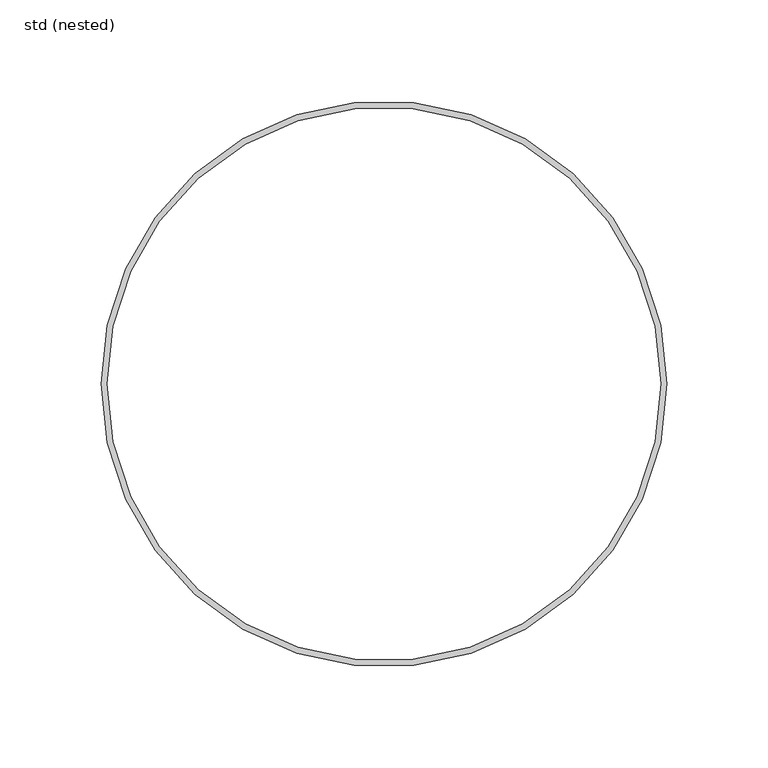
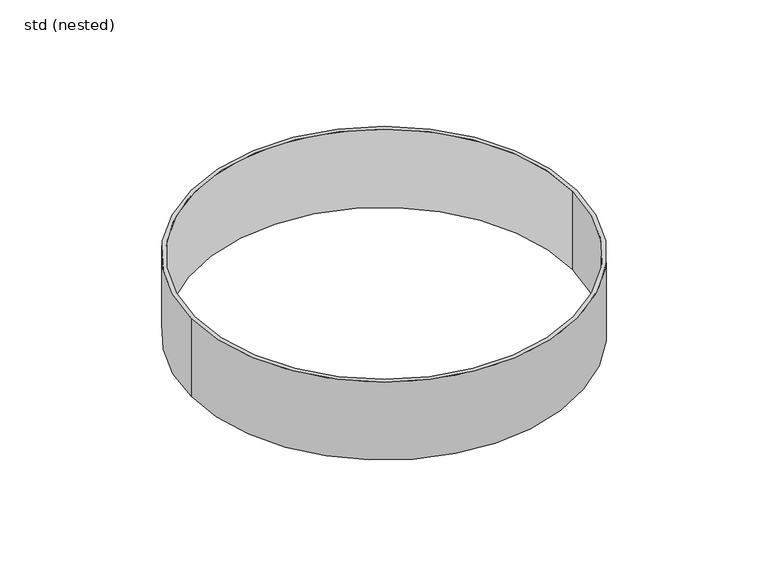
"""IFC4 building model written with IfcOpenShell, lengths in millimetres: pipe fitting geometry, ZZZ_do not use_PIF_ST_WPB_GM-X compound pipe clamp_ACO : std (nested)."""

from ifc_helpers import new_model, si_unit, point, frame, origin, origin_2d, place, context, project, spatial, circle_curve, trimmed, segment, composite_curve, outline, extrude, source, transform, mapped, element, save


def std_nested_4c6f7b31(model_context):
    return source(origin(), model_context, "Body", "SweptSolid", [
        extrude(outline(composite_curve([segment(trimmed(circle_curve(origin_2d(), 140.0), [point((140.0, 0.0))], [point((-140.0, 0.0))], False, "CARTESIAN"), True, "CONTINUOUS"), segment(trimmed(circle_curve(origin_2d(), 140.0), [point((-140.0, 0.0))], [point((140.0, 0.0))], False, "CARTESIAN"), True, "CONTINUOUS")], self_intersect=False), holes=[composite_curve([segment(trimmed(circle_curve(origin_2d(), 137.0), [point((137.0, 0.0))], [point((-137.0, 0.0))], True, "CARTESIAN"), True, "CONTINUOUS"), segment(trimmed(circle_curve(origin_2d(), 137.0), [point((-137.0, 0.0))], [point((137.0, 0.0))], True, "CARTESIAN"), True, "CONTINUOUS")], self_intersect=False)]), frame((0.0, 0.0, -135.0), z_axis=(0.0, 0.0, 1.0), x_axis=(1.0, 0.0, 0.0)), (0.0, 0.0, 1.0), 60.0),
    ])


if __name__ == "__main__":
    model = new_model("IFC4")
    model_context = context("Model", 3, world=origin())
    ifc_project = project(units=[si_unit("LENGTHUNIT", "METRE", prefix="MILLI")], contexts=[model_context])
    site = spatial("IfcSite", under=ifc_project)
    building = spatial("IfcBuilding", under=site)
    placement = place(None, origin())
    std_nested_shape = std_nested_4c6f7b31(model_context)
    element("IfcPipeFitting", 1, ObjectType="ZZZ_do not use_PIF_ST_WPB_GM-X compound pipe clamp_ACO : std (nested)", at=placement, inside=building, context=model_context, shape_type="MappedRepresentation", body=[
        mapped(std_nested_shape, transform((0.0, 0.0, 0.0), x_axis=(1.0, 0.0, 0.0), y_axis=(0.0, 1.0, 0.0), z_axis=(0.0, 0.0, 1.0))),
    ])
    save(model, "model.ifc")
